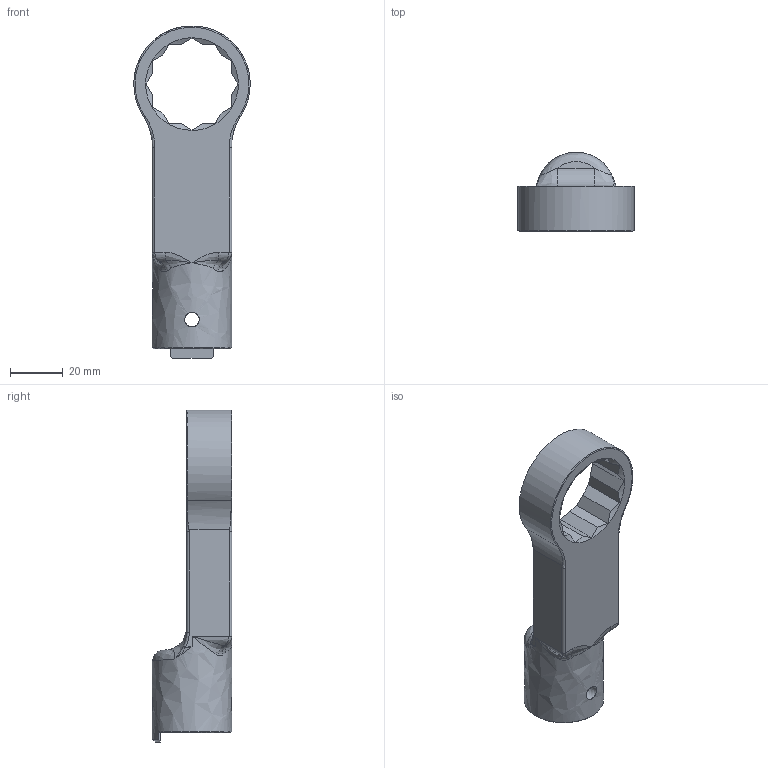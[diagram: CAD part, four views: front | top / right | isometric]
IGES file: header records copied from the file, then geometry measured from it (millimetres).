
Global section: file name: RH22DX30; native system: Autodesk Inventor 2016; preprocessor: unknown; author: Q600; date: 20151110.163352; units: millimetre
Bounding box: 43.97 x 30 x 125.44 mm (x, y, z)
Volume: 48508.3 mm3; surface area: 15155.5 mm2
Topology: 1 solids, 1 shells, 89 faces, 249 edges, 149 vertices
Faces by surface type: bspline 89
